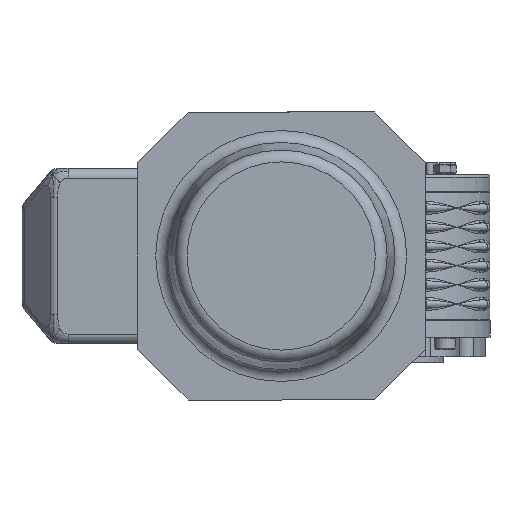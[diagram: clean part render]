
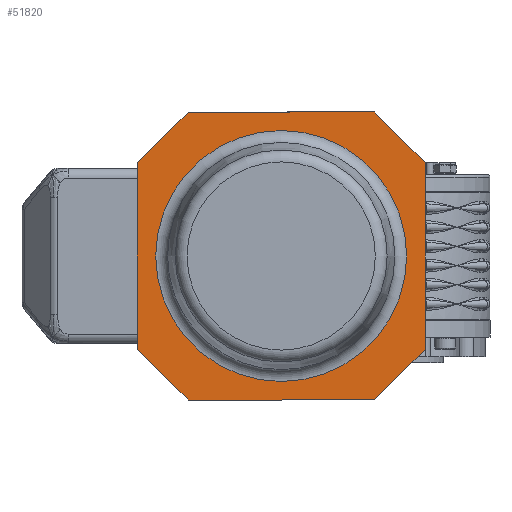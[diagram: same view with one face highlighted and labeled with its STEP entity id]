
A CAD part, left-side view. The second image highlights one B-rep face of the part: STEP entity #51820.
In plain terms, the highlighted planar face has unit normal (-1, 0, 0) as drawn and (1, 0, 0) by its records, which use the part's own axes.
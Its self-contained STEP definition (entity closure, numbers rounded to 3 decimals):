
#51714=CARTESIAN_POINT('',(176.0,0.,52.284));
#51715=VERTEX_POINT('',#51714);
#51716=CARTESIAN_POINT('',(176.0,0.0,0.0));
#51717=DIRECTION('',(1.0,0.0,0.0));
#51718=DIRECTION('',(0.0,0.0,-1.0));
#51719=AXIS2_PLACEMENT_3D('',#51716,#51717,#51718);
#51720=CIRCLE('',#51719,52.284);
#51721=EDGE_CURVE('',#51715,#51715,#51720,.T.);
#51746=CARTESIAN_POINT('',(176.0,26.4,0.0));
#51747=DIRECTION('',(1.0,0.0,0.0));
#51748=DIRECTION('',(0.0,0.0,-1.0));
#51749=AXIS2_PLACEMENT_3D('',#51746,#51747,#51748);
#51750=PLANE('',#51749);
#51751=CARTESIAN_POINT('',(176.0,-60.0,38.787));
#51752=VERTEX_POINT('',#51751);
#51753=CARTESIAN_POINT('',(176.0,-38.787,60.0));
#51754=VERTEX_POINT('',#51753);
#51755=CARTESIAN_POINT('',(176.0,-60.0,38.787));
#51756=DIRECTION('',(0.0,0.707,0.707));
#51757=VECTOR('',#51756,30.);
#51758=LINE('',#51755,#51757);
#51759=EDGE_CURVE('',#51752,#51754,#51758,.T.);
#51760=ORIENTED_EDGE('',*,*,#51759,.F.);
#51761=CARTESIAN_POINT('',(176.0,-60.0,-38.787));
#51762=VERTEX_POINT('',#51761);
#51763=CARTESIAN_POINT('',(176.0,-60.0,-38.787));
#51764=DIRECTION('',(0.0,0.0,1.0));
#51765=VECTOR('',#51764,77.574);
#51766=LINE('',#51763,#51765);
#51767=EDGE_CURVE('',#51762,#51752,#51766,.T.);
#51768=ORIENTED_EDGE('',*,*,#51767,.F.);
#51769=CARTESIAN_POINT('',(176.0,-38.787,-60.0));
#51770=VERTEX_POINT('',#51769);
#51771=CARTESIAN_POINT('',(176.0,-38.787,-60.0));
#51772=DIRECTION('',(0.0,-0.707,0.707));
#51773=VECTOR('',#51772,30.);
#51774=LINE('',#51771,#51773);
#51775=EDGE_CURVE('',#51770,#51762,#51774,.T.);
#51776=ORIENTED_EDGE('',*,*,#51775,.F.);
#51777=CARTESIAN_POINT('',(176.0,38.787,-60.0));
#51778=VERTEX_POINT('',#51777);
#51779=CARTESIAN_POINT('',(176.0,38.787,-60.0));
#51780=DIRECTION('',(0.0,-1.0,0.0));
#51781=VECTOR('',#51780,77.574);
#51782=LINE('',#51779,#51781);
#51783=EDGE_CURVE('',#51778,#51770,#51782,.T.);
#51784=ORIENTED_EDGE('',*,*,#51783,.F.);
#51785=CARTESIAN_POINT('',(176.0,60.0,-38.787));
#51786=VERTEX_POINT('',#51785);
#51787=CARTESIAN_POINT('',(176.0,60.0,-38.787));
#51788=DIRECTION('',(0.0,-0.707,-0.707));
#51789=VECTOR('',#51788,30.);
#51790=LINE('',#51787,#51789);
#51791=EDGE_CURVE('',#51786,#51778,#51790,.T.);
#51792=ORIENTED_EDGE('',*,*,#51791,.F.);
#51793=CARTESIAN_POINT('',(176.0,60.0,38.787));
#51794=VERTEX_POINT('',#51793);
#51795=CARTESIAN_POINT('',(176.0,60.0,38.787));
#51796=DIRECTION('',(0.0,0.0,-1.0));
#51797=VECTOR('',#51796,77.574);
#51798=LINE('',#51795,#51797);
#51799=EDGE_CURVE('',#51794,#51786,#51798,.T.);
#51800=ORIENTED_EDGE('',*,*,#51799,.F.);
#51801=CARTESIAN_POINT('',(176.0,38.787,60.0));
#51802=VERTEX_POINT('',#51801);
#51803=CARTESIAN_POINT('',(176.0,38.787,60.0));
#51804=DIRECTION('',(0.0,0.707,-0.707));
#51805=VECTOR('',#51804,30.);
#51806=LINE('',#51803,#51805);
#51807=EDGE_CURVE('',#51802,#51794,#51806,.T.);
#51808=ORIENTED_EDGE('',*,*,#51807,.F.);
#51809=CARTESIAN_POINT('',(176.0,-38.787,60.0));
#51810=DIRECTION('',(0.0,1.0,0.0));
#51811=VECTOR('',#51810,77.574);
#51812=LINE('',#51809,#51811);
#51813=EDGE_CURVE('',#51754,#51802,#51812,.T.);
#51814=ORIENTED_EDGE('',*,*,#51813,.F.);
#51815=EDGE_LOOP('',(#51760,#51768,#51776,#51784,#51792,#51800,#51808,#51814));
#51816=FACE_OUTER_BOUND('',#51815,.T.);
#51817=ORIENTED_EDGE('',*,*,#51721,.F.);
#51818=EDGE_LOOP('',(#51817));
#51819=FACE_BOUND('',#51818,.T.);
#51820=ADVANCED_FACE('',(#51816,#51819),#51750,.T.);
